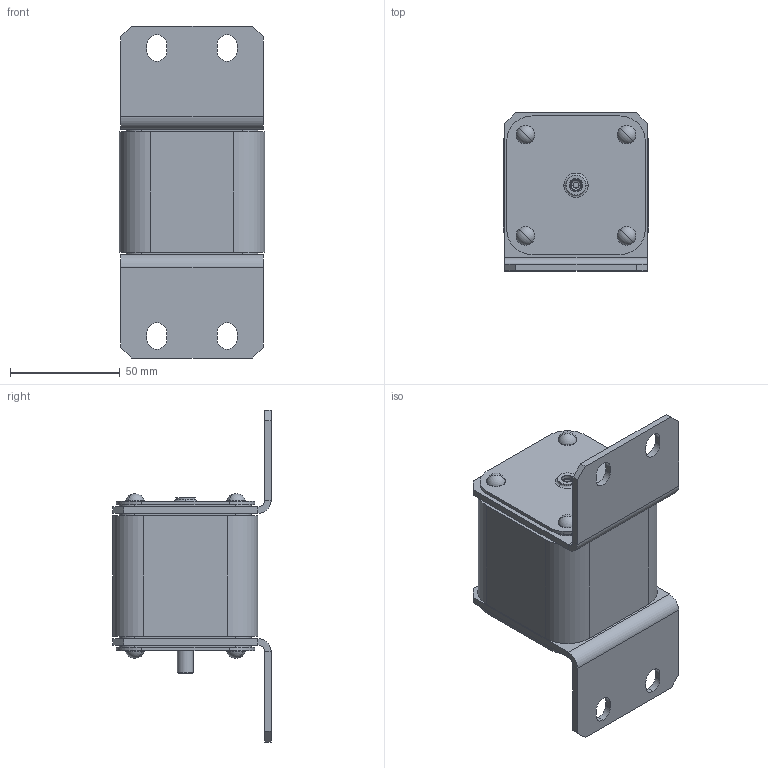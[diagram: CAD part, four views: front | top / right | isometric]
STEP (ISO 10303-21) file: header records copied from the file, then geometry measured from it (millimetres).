
FILE_DESCRIPTION (( 'STEP AP214' ), '1' );
FILE_NAME ('ﾏﾏ60ﾑ-40ﾒ1-XXXX-XXXX-ﾊﾝﾀﾇ.STEP', '2023-05-02T06:31:19', ( '' ), ( '' ), 'SwSTEP 2.0', 'SolidWorks 2018', '' );
FILE_SCHEMA (( 'AUTOMOTIVE_DESIGN' ));
Length unit declared in the file: millimetre
Products named in the file (1): ﾏﾏ60ﾑ-40ﾒ1-XXXX-XXXX-ﾊﾝﾀﾇ
Bounding box: 66 x 72 x 151 mm (x, y, z)
Volume: 287824.8 mm3; surface area: 53888.5 mm2
Topology: 1 solids, 10 shells, 360 faces, 806 edges, 506 vertices
Faces by surface type: plane 176, cylinder 132, torus 28, sphere 16, cone 8
Entity records: 14056 total; most frequent: DIRECTION 1934, CARTESIAN_POINT 1673, ORIENTED_EDGE 1612, EDGE_CURVE 806, AXIS2_PLACEMENT_3D 767, VERTEX_POINT 506, EDGE_LOOP 408, CIRCLE 406
